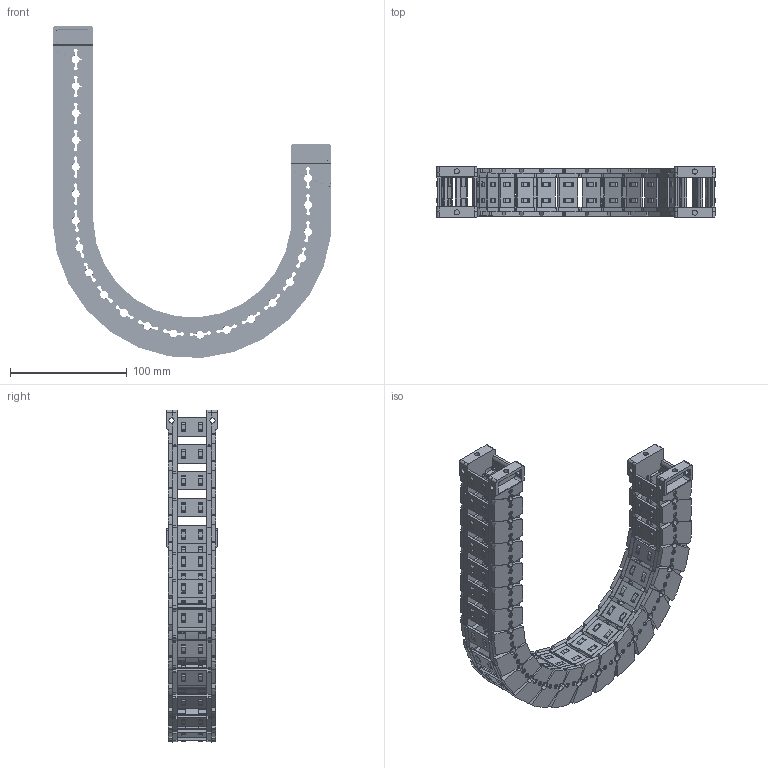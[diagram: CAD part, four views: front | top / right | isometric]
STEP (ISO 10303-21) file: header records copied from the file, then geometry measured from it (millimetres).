
FILE_DESCRIPTION((''),'2;1');
FILE_NAME('JY-28X25-R100_ASM','2026-03-25T18:42:52',('admin'),(''),'CREO PARAMETRIC BY PTC INC, 2021023','CREO PARAMETRIC BY PTC INC, 2021023','');
FILE_SCHEMA(('CONFIG_CONTROL_DESIGN'));
Length unit declared in the file: millimetre
Products named in the file (11): 28XL-L; 25-35XL-YP; 28XL-R; ASM0001_ASM; 28-LTT-A-L; 28-LTT-A-R; 28XL-LTT-A_ASM; 28-LTT-B-L; 28-LTT-B-R; 28XL-LTT-B_ASM; JY-28X25-R100_ASM
Assembly tree (35 placements, depth 3):
  JY-28X25-R100_ASM
    ASM0001_ASM  x21
      28XL-L
      25-35XL-YP
      28XL-R
    28XL-LTT-A_ASM
      28-LTT-A-L
      25-35XL-YP  x2
      28-LTT-A-R
    28XL-LTT-B_ASM
      28-LTT-B-L
      25-35XL-YP  x2
      28-LTT-B-R
Bounding box: 238.21 x 44 x 283.78 mm (x, y, z)
Volume: 289520.8 mm3; surface area: 212329.5 mm2
Topology: 92 solids, 92 shells, 7454 faces, 22156 edges, 14794 vertices
Faces by surface type: plane 4887, cone 1339, cylinder 1072, bspline 156
Entity records: 29119 total; most frequent: CARTESIAN_POINT 9493, ORIENTED_EDGE 4352, DIRECTION 3661, EDGE_CURVE 2176, VERTEX_POINT 1454, VECTOR 1365, LINE 1365, AXIS2_PLACEMENT_3D 1148
